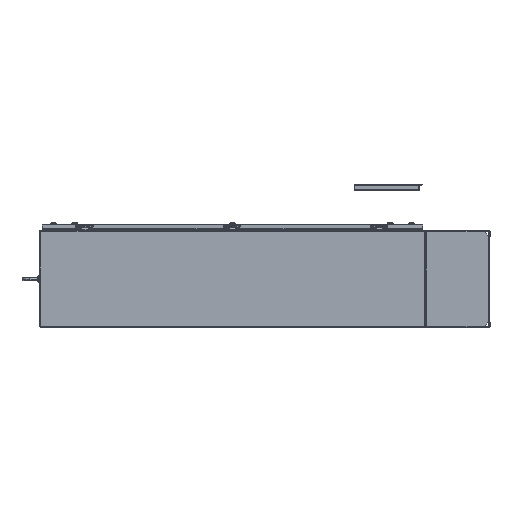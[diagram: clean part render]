
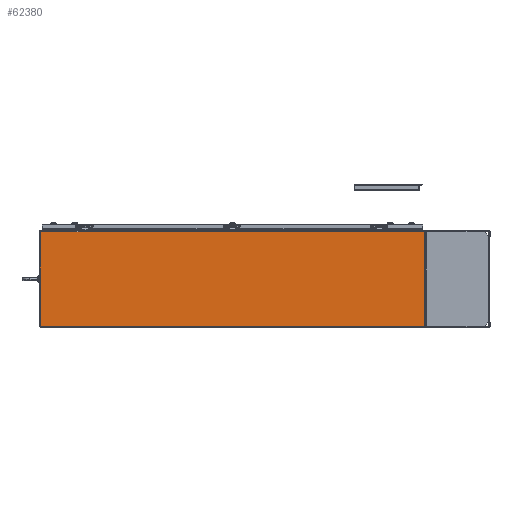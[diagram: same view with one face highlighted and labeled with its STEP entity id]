
A CAD part, left-side view. The second image highlights one B-rep face of the part: STEP entity #62380.
In plain terms, the highlighted planar face has unit normal (-1, 0, 0) as drawn and (1, 0, 0) by its records, which use the part's own axes.
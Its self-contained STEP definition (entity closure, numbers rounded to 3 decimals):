
#377 = AXIS2_PLACEMENT_3D ( 'NONE', #26803, #26815, #26816 ) ;
#24399 = FACE_OUTER_BOUND ( 'NONE', #64936, .T. ) ;
#25917 = CARTESIAN_POINT ( 'NONE',  ( 0., 35.913, 0. ) ) ;
#25923 = CARTESIAN_POINT ( 'NONE',  ( 0., -35.913, -17.71 ) ) ;
#25948 = CARTESIAN_POINT ( 'NONE',  ( 0., -35.913, 0. ) ) ;
#26007 = CARTESIAN_POINT ( 'NONE',  ( 0., 35.913, -17.71 ) ) ;
#26803 = CARTESIAN_POINT ( 'NONE',  ( 0., -35.913, 0. ) ) ;
#26810 = PLANE ( 'NONE',  #377 ) ;
#26815 = DIRECTION ( 'NONE',  ( 1., 0., 0. ) ) ;
#26816 = DIRECTION ( 'NONE',  ( 0., 0., -1. ) ) ;
#32498 = EDGE_CURVE ( 'NONE', #61436, #61345, #76661, .T. ) ;
#32517 = EDGE_CURVE ( 'NONE', #61345, #61376, #76670, .T. ) ;
#32544 = EDGE_CURVE ( 'NONE', #61376, #61351, #76708, .T. ) ;
#32555 = EDGE_CURVE ( 'NONE', #61351, #61436, #76716, .T. ) ;
#61345 = VERTEX_POINT ( 'NONE', #25917 ) ;
#61351 = VERTEX_POINT ( 'NONE', #25923 ) ;
#61376 = VERTEX_POINT ( 'NONE', #25948 ) ;
#61436 = VERTEX_POINT ( 'NONE', #26007 ) ;
#62380 = ADVANCED_FACE ( 'NONE', ( #24399 ), #26810, .T. ) ;
#64786 = ORIENTED_EDGE ( 'NONE', *, *, #32544, .T. ) ;
#64787 = ORIENTED_EDGE ( 'NONE', *, *, #32555, .T. ) ;
#64788 = ORIENTED_EDGE ( 'NONE', *, *, #32498, .T. ) ;
#64789 = ORIENTED_EDGE ( 'NONE', *, *, #32517, .T. ) ;
#64936 = EDGE_LOOP ( 'NONE', ( #64786, #64787, #64788, #64789 ) ) ;
#76661 = LINE ( 'NONE', #79033, #76669 ) ;
#76669 = VECTOR ( 'NONE', #79036, 39.37 ) ;
#76670 = LINE ( 'NONE', #79055, #76684 ) ;
#76684 = VECTOR ( 'NONE', #79058, 39.37 ) ;
#76708 = LINE ( 'NONE', #79086, #76709 ) ;
#76709 = VECTOR ( 'NONE', #79087, 39.37 ) ;
#76716 = LINE ( 'NONE', #79096, #76717 ) ;
#76717 = VECTOR ( 'NONE', #79097, 39.37 ) ;
#79033 = CARTESIAN_POINT ( 'NONE',  ( 0., 35.913, 0. ) ) ;
#79036 = DIRECTION ( 'NONE',  ( 0., 0., 1. ) ) ;
#79055 = CARTESIAN_POINT ( 'NONE',  ( 0., 35.913, 0. ) ) ;
#79058 = DIRECTION ( 'NONE',  ( 0., -1., 0. ) ) ;
#79086 = CARTESIAN_POINT ( 'NONE',  ( 0., -35.913, 0. ) ) ;
#79087 = DIRECTION ( 'NONE',  ( 0., 0., -1. ) ) ;
#79096 = CARTESIAN_POINT ( 'NONE',  ( 0., -35.913, -17.71 ) ) ;
#79097 = DIRECTION ( 'NONE',  ( 0., 1., 0. ) ) ;
